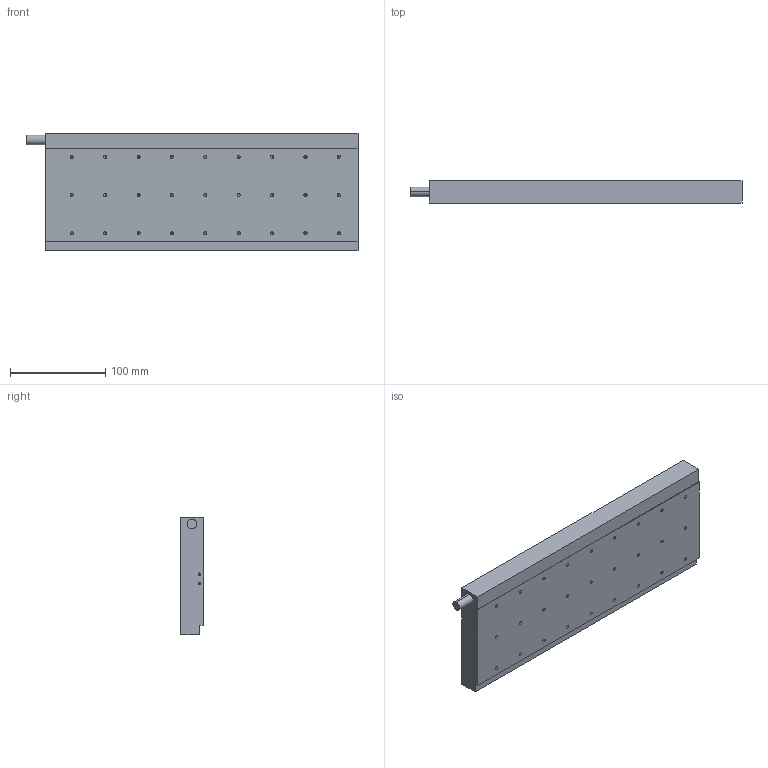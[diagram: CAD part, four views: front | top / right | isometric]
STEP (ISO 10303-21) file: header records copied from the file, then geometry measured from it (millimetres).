
FILE_DESCRIPTION (( 'STEP AP214' ), '1' );
FILE_NAME ('MK41.STEP', '2025-09-05T09:06:19', ( '' ), ( '' ), 'SwSTEP 2.0', 'SolidWorks 2016', '' );
FILE_SCHEMA (( 'AUTOMOTIVE_DESIGN' ));
Length unit declared in the file: millimetre
Products named in the file (1): MK41
Bounding box: 348 x 23.7 x 123.5 mm (x, y, z)
Volume: 945902.8 mm3; surface area: 104796.4 mm2
Topology: 1 solids, 1 shells, 129 faces, 320 edges, 165 vertices
Faces by surface type: cylinder 60, cone 58, plane 11
Entity records: 4133 total; most frequent: DIRECTION 642, CARTESIAN_POINT 557, ORIENTED_EDGE 524, EDGE_CURVE 262, AXIS2_PLACEMENT_3D 250, VERTEX_POINT 165, EDGE_LOOP 159, VECTOR 142
